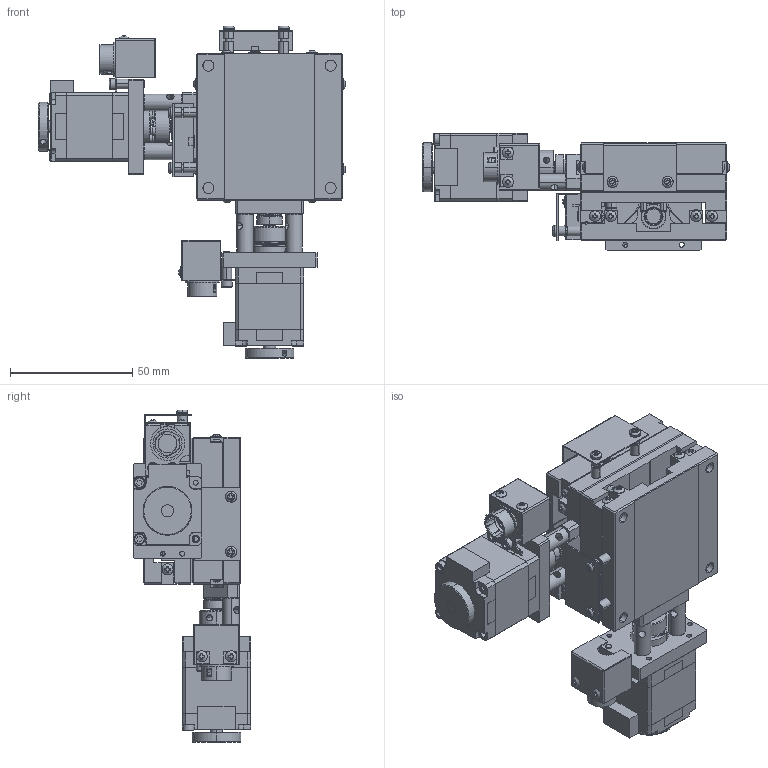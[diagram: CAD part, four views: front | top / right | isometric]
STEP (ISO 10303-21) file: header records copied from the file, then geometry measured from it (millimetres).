
FILE_DESCRIPTION (( 'STEP AP214' ), '1' );
FILE_NAME ('TYS6015E-L1-M28R.STEP', '2025-01-03T09:17:40', ( '' ), ( '' ), 'SwSTEP 2.0', 'SolidWorks 2020', '' );
FILE_SCHEMA (( 'AUTOMOTIVE_DESIGN' ));
Length unit declared in the file: millimetre
Products named in the file (2): TXS6015E-L1-M28R; TYS6015E-L1-M28R
Assembly tree (2 placements, depth 2):
  TYS6015E-L1-M28R
    TXS6015E-L1-M28R  x2
Bounding box: 125.63 x 48 x 135.7 mm (x, y, z)
Volume: 176051.3 mm3; surface area: 97997.9 mm2
Topology: 170 solids, 170 shells, 3646 faces, 9390 edges, 6046 vertices
Faces by surface type: plane 1796, cylinder 1172, cone 350, bspline 168, sphere 112, torus 48
Entity records: 60290 total; most frequent: CARTESIAN_POINT 16422, ORIENTED_EDGE 8974, DIRECTION 8677, EDGE_CURVE 4487, AXIS2_PLACEMENT_3D 3147, VERTEX_POINT 2939, VECTOR 2383, LINE 2383
